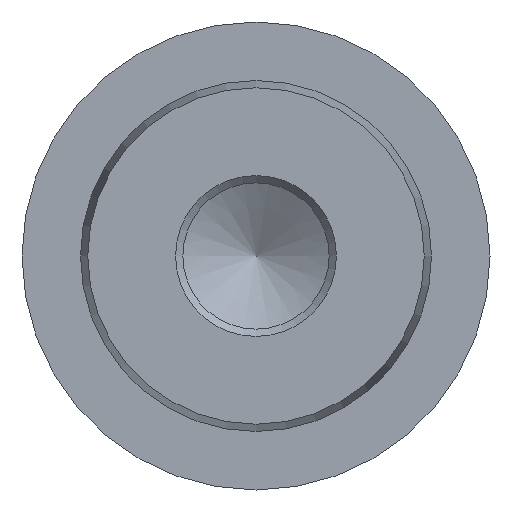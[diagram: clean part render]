
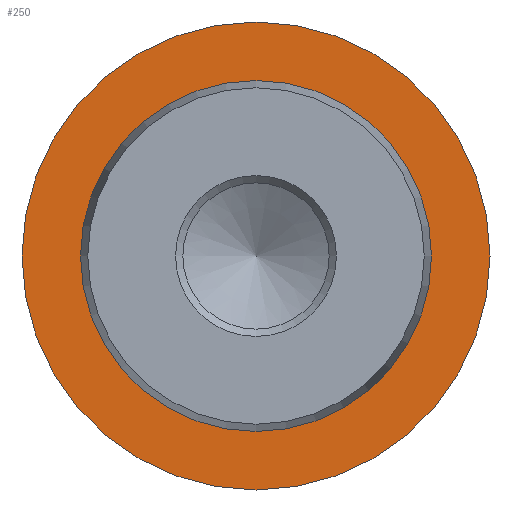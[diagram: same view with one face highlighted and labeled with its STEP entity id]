
A CAD part, left-side view. The second image highlights one B-rep face of the part: STEP entity #250.
In plain terms, the highlighted planar face has unit normal (-1, 0, 0).
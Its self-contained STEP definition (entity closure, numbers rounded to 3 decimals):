
#15=FACE_BOUND('',#87,.T.);
#25=PLANE('',#300);
#68=FACE_OUTER_BOUND('',#86,.T.);
#86=EDGE_LOOP('',(#200));
#87=EDGE_LOOP('',(#201));
#106=CIRCLE('',#299,11.5);
#107=CIRCLE('',#301,16.);
#124=VERTEX_POINT('',#438);
#125=VERTEX_POINT('',#442);
#149=EDGE_CURVE('',#124,#124,#106,.T.);
#151=EDGE_CURVE('',#125,#125,#107,.T.);
#200=ORIENTED_EDGE('',*,*,#151,.F.);
#201=ORIENTED_EDGE('',*,*,#149,.T.);
#250=ADVANCED_FACE('',(#68,#15),#25,.T.);
#299=AXIS2_PLACEMENT_3D('',#439,#366,#367);
#300=AXIS2_PLACEMENT_3D('',#441,#369,#370);
#301=AXIS2_PLACEMENT_3D('',#443,#371,#372);
#366=DIRECTION('center_axis',(1.,0.,0.));
#367=DIRECTION('ref_axis',(0.,0.,-1.));
#369=DIRECTION('center_axis',(-1.,0.,0.));
#370=DIRECTION('ref_axis',(0.,0.,1.));
#371=DIRECTION('center_axis',(1.,0.,0.));
#372=DIRECTION('ref_axis',(0.,0.,-1.));
#438=CARTESIAN_POINT('',(25.,-11.5,0.));
#439=CARTESIAN_POINT('Origin',(25.,0.,0.));
#441=CARTESIAN_POINT('Origin',(25.,16.,0.));
#442=CARTESIAN_POINT('',(25.,-16.,0.));
#443=CARTESIAN_POINT('Origin',(25.,0.,0.));
